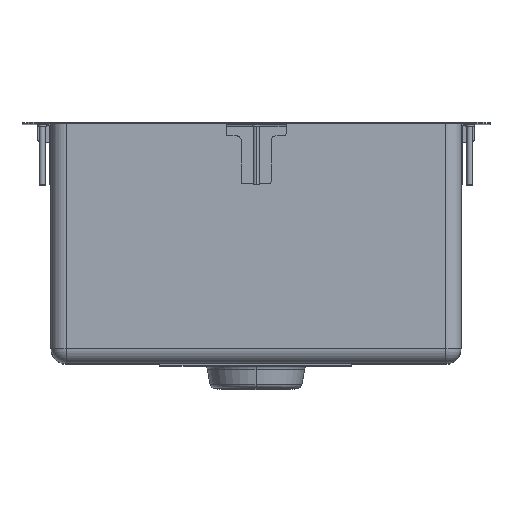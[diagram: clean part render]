
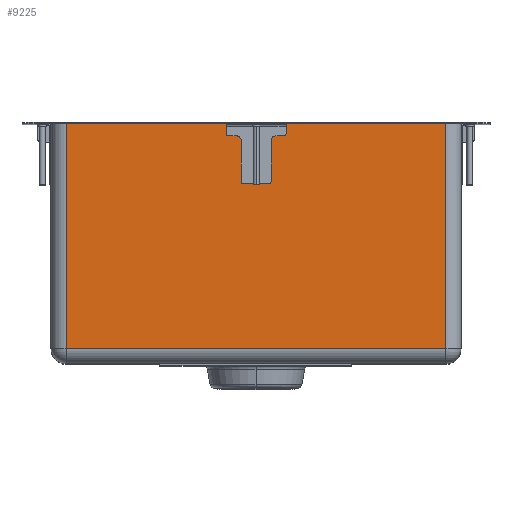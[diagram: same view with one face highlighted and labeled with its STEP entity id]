
A CAD part, top view. The second image highlights one B-rep face of the part: STEP entity #9225.
In plain terms, the highlighted planar face has unit normal (0, 0, 1).
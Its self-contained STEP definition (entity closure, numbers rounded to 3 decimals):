
#354 = DIRECTION ( 'NONE',  ( 0., 0., 1. ) ) ;
#420 = AXIS2_PLACEMENT_3D ( 'NONE', #3256, #354, #4740 ) ;
#1040 = ORIENTED_EDGE ( 'NONE', *, *, #7889, .F. ) ;
#1061 = EDGE_LOOP ( 'NONE', ( #1040, #3017, #4015, #1111 ) ) ;
#1111 = ORIENTED_EDGE ( 'NONE', *, *, #3752, .F. ) ;
#2436 = LINE ( 'NONE', #9475, #2586 ) ;
#2586 = VECTOR ( 'NONE', #7859, 1000. ) ;
#2638 = EDGE_CURVE ( 'NONE', #4584, #4978, #3991, .T. ) ;
#2823 = CARTESIAN_POINT ( 'NONE',  ( 32., -188., 420.9 ) ) ;
#3017 = ORIENTED_EDGE ( 'NONE', *, *, #3610, .F. ) ;
#3026 = CARTESIAN_POINT ( 'NONE',  ( 32., -200., 420.9 ) ) ;
#3256 = CARTESIAN_POINT ( 'NONE',  ( 20., -200., 420.9 ) ) ;
#3298 = FACE_OUTER_BOUND ( 'NONE', #1061, .T. ) ;
#3307 = CARTESIAN_POINT ( 'NONE',  ( 32., -0.9, 420.9 ) ) ;
#3610 = EDGE_CURVE ( 'NONE', #4978, #7243, #3916, .T. ) ;
#3752 = EDGE_CURVE ( 'NONE', #4722, #4584, #2436, .T. ) ;
#3916 = LINE ( 'NONE', #3026, #5422 ) ;
#3945 = LINE ( 'NONE', #7784, #8749 ) ;
#3991 = LINE ( 'NONE', #6931, #7302 ) ;
#4015 = ORIENTED_EDGE ( 'NONE', *, *, #2638, .F. ) ;
#4584 = VERTEX_POINT ( 'NONE', #8876 ) ;
#4692 = DIRECTION ( 'NONE',  ( -1., 0., 0. ) ) ;
#4722 = VERTEX_POINT ( 'NONE', #4770 ) ;
#4740 = DIRECTION ( 'NONE',  ( 1., 0., 0. ) ) ;
#4770 = CARTESIAN_POINT ( 'NONE',  ( 348., -0.9, 420.9 ) ) ;
#4978 = VERTEX_POINT ( 'NONE', #2823 ) ;
#5422 = VECTOR ( 'NONE', #8305, 1000. ) ;
#6931 = CARTESIAN_POINT ( 'NONE',  ( 20., -188., 420.9 ) ) ;
#7243 = VERTEX_POINT ( 'NONE', #3307 ) ;
#7302 = VECTOR ( 'NONE', #4692, 1000. ) ;
#7784 = CARTESIAN_POINT ( 'NONE',  ( 0., -0.9, 420.9 ) ) ;
#7859 = DIRECTION ( 'NONE',  ( 0., -1., 0. ) ) ;
#7889 = EDGE_CURVE ( 'NONE', #7243, #4722, #3945, .T. ) ;
#8305 = DIRECTION ( 'NONE',  ( 0., 1., 0. ) ) ;
#8749 = VECTOR ( 'NONE', #9363, 1000. ) ;
#8876 = CARTESIAN_POINT ( 'NONE',  ( 348., -188., 420.9 ) ) ;
#9225 = ADVANCED_FACE ( 'NONE', ( #3298 ), #9459, .T. ) ;
#9363 = DIRECTION ( 'NONE',  ( 1., 0., 0. ) ) ;
#9459 = PLANE ( 'NONE',  #420 ) ;
#9475 = CARTESIAN_POINT ( 'NONE',  ( 348., -200., 420.9 ) ) ;
